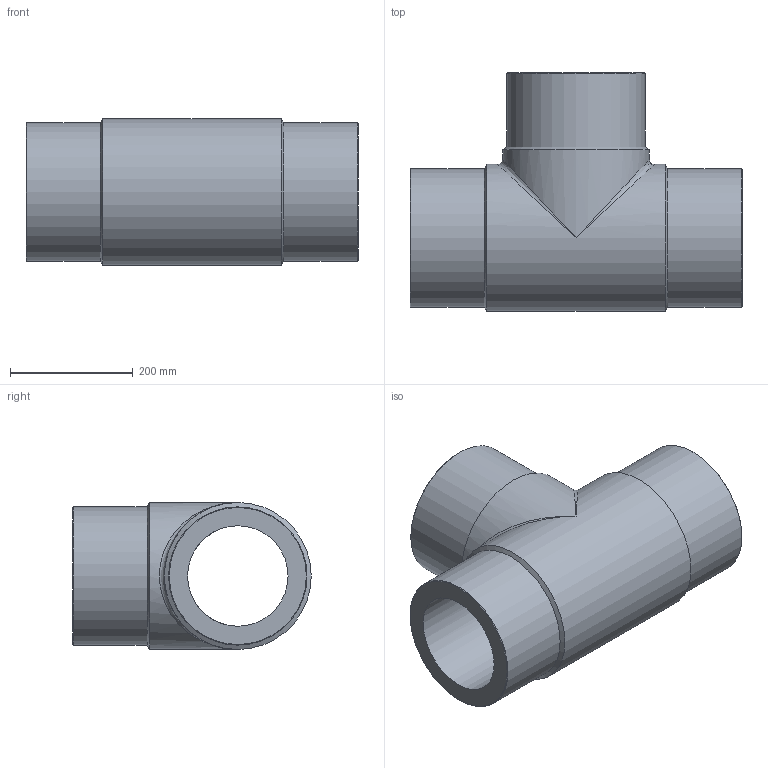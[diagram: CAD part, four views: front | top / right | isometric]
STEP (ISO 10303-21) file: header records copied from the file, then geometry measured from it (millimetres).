
FILE_DESCRIPTION(/* description */ ('Unknown'),/* implementation_level */ '2;1');
FILE_NAME(/* name */ 'TP225H',/* time_stamp */ '2021-08-06T09:57:28+02:00',/* author */ ('Unknown'),/* organization */ ('Unknown'),/* preprocessor_version */ 'ST-DEVELOPER v16.7',/* originating_system */ 'Solid Edge',/* authorisation */ 'Unknown');
FILE_SCHEMA (('AUTOMOTIVE_DESIGN {1 0 10303 214 3 1 1}'));
Length unit declared in the file: millimetre
Products named in the file (1): TP225H
Bounding box: 540 x 388 x 239 mm (x, y, z)
Volume: 14341198.6 mm3; surface area: 901232 mm2
Topology: 1 solids, 1 shells, 18 faces, 44 edges, 23 vertices
Faces by surface type: cylinder 7, cone 6, plane 3, bspline 2
Full cylindrical faces by diameter (mm): 163.4 x2, 225 x3, 239 x2
Entity records: 528 total; most frequent: CARTESIAN_POINT 171, DIRECTION 76, ORIENTED_EDGE 42, AXIS2_PLACEMENT_3D 38, EDGE_LOOP 36, FACE_BOUND 36, EDGE_CURVE 21, VERTEX_POINT 19
